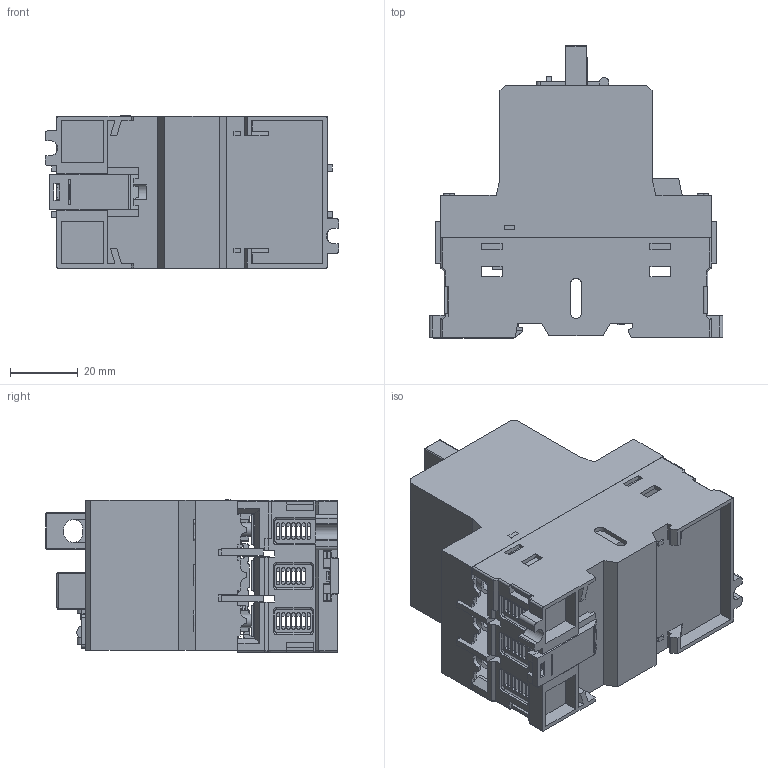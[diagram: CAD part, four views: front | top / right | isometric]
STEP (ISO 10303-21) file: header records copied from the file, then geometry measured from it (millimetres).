
FILE_DESCRIPTION((''),'2; 1');
FILE_NAME('','2026-03-27T11:18:10',(''),(''),'CST STEP Exporter V1.0','Unknown','');
FILE_SCHEMA(('CONFIG_CONTROL_DESIGN'));
Length unit declared in the file: metre
Assembly tree (36 placements, depth 2):
  (unnamed)
    (unnamed)
    (unnamed)
    (unnamed)
    (unnamed)
    (unnamed)
    (unnamed)
    (unnamed)
    (unnamed)
    (unnamed)
    (unnamed)
    (unnamed)
    (unnamed)
    (unnamed)
    (unnamed)
    (unnamed)
    (unnamed)
    (unnamed)
    (unnamed)
    (unnamed)
    (unnamed)
    (unnamed)
    (unnamed)
    (unnamed)
    (unnamed)
    (unnamed)
    (unnamed)
    (unnamed)
    (unnamed)
    (unnamed)
    (unnamed)
    (unnamed)
    (unnamed)
    (unnamed)
    (unnamed)
    (unnamed)
    (unnamed)
Bounding box: 87 x 86.49 x 45.1 mm (x, y, z)
Surface area: 110098.5 mm2 (no closed solid volume)
Topology: 0 solids, 36 shells, 1001 faces, 4055 edges, 2995 vertices
Faces by surface type: plane 704, cylinder 241, extrusion 31, torus 21, sphere 3, bspline 1
Full cylindrical faces by diameter (mm): 2 x2, 3.2 x1, 3.5 x2, 4 x4, 4.8 x1, 7.5 x6, 9.5 x6
Entity records: 52329 total; most frequent: CARTESIAN_POINT 11374, ORIENTED_EDGE 6344, DIRECTION 6170, EDGE_CURVE 4016, VERTEX_POINT 2985, VECTOR 2946, LINE 2915, AXIS2_PLACEMENT_3D 1612
